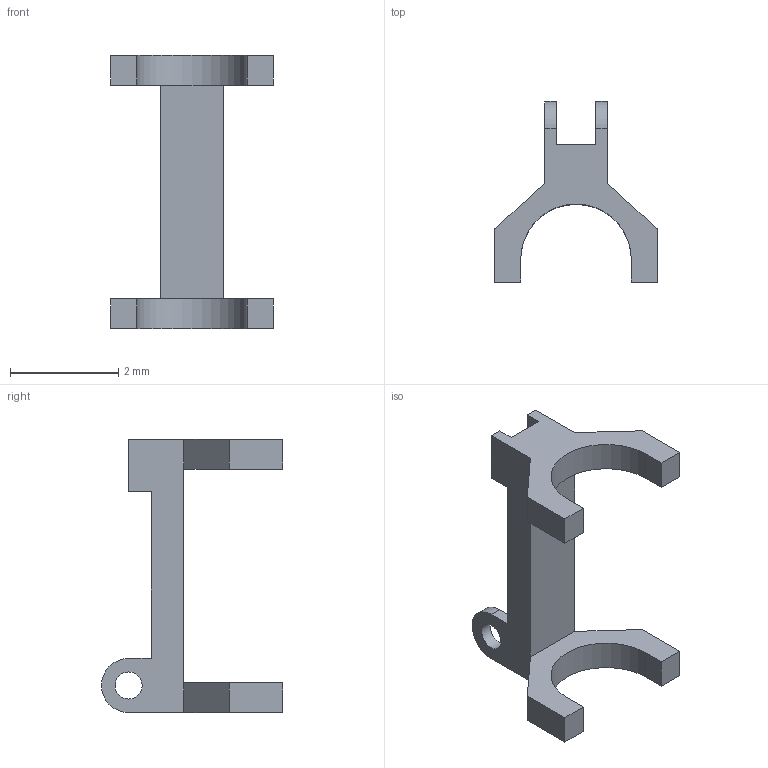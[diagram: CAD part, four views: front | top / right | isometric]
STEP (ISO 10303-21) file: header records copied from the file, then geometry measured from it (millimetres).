
FILE_DESCRIPTION(/* description */ ('Alibre Inc.'),/* implementation_level */ '2;1');
FILE_NAME(/* name */ 'Exercise 3',/* time_stamp */ '2003-12-09T12:28:36-06:00',/* author */ (''),/* organization */ (''),/* preprocessor_version */ 'ST-DEVELOPER v9',/* originating_system */ 'Alibre',/* authorisation */ '');
FILE_SCHEMA (('ALIBRE_SCHEMA','CONFIG_CONTROL_DESIGN'));
Length unit declared in the file: centimetre
Products named in the file (1): ID_1
Bounding box: 3 x 3.34 x 5.04 mm (x, y, z)
Volume: 6.5 mm3; surface area: 42.7 mm2
Topology: 1 solids, 1 shells, 40 faces, 111 edges, 73 vertices
Faces by surface type: plane 34, cylinder 6
Full cylindrical faces by diameter (mm): 0.5 x2
Entity records: 2849 total; most frequent: CARTESIAN_POINT 374, DIRECTION 242, ORIENTED_EDGE 216, VECTOR 173, CONSTRAINTPAIRUV 152, REFERENCEDEPENDENTUV 135, LINE 127, PERSISTANTTOPOLOGYATTRIBUTE 124
